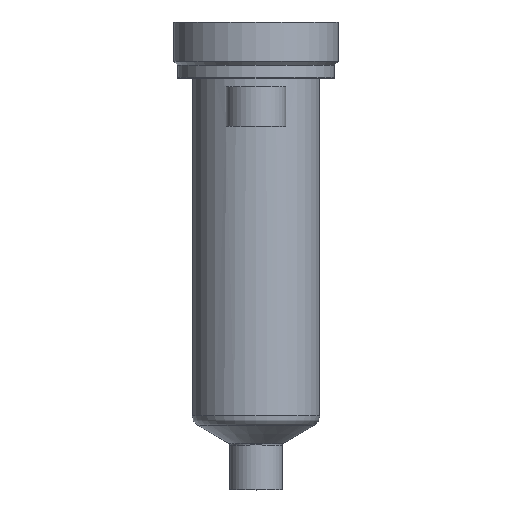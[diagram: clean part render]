
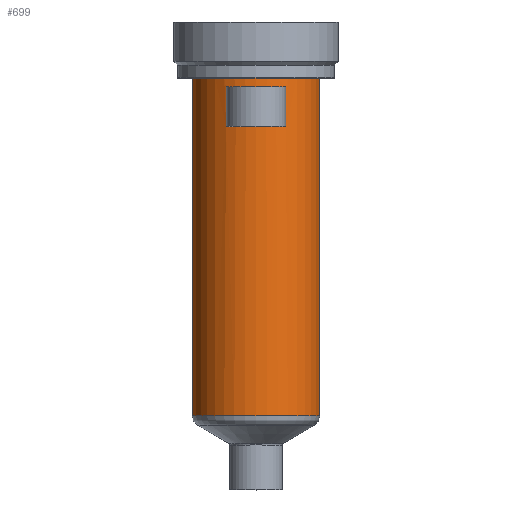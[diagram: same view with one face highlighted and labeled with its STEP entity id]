
A CAD part, top view. The second image highlights one B-rep face of the part: STEP entity #699.
In plain terms, the highlighted cylindrical face has radius 17 mm (diameter 34 mm), a partial arc.
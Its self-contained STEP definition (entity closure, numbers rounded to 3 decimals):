
#191=DIRECTION('',(0.,-1.,0.));
#192=VECTOR('',#191,90.206);
#193=CARTESIAN_POINT('',(17.,0.,0.));
#194=LINE('',#193,#192);
#195=CARTESIAN_POINT('',(0.,-90.206,0.));
#196=DIRECTION('',(0.,1.,0.));
#197=DIRECTION('',(-1.,0.,0.));
#198=AXIS2_PLACEMENT_3D('',#195,#196,#197);
#200=DIRECTION('',(0.,1.,0.));
#201=VECTOR('',#200,90.206);
#202=CARTESIAN_POINT('',(-17.,-90.206,0.));
#203=LINE('',#202,#201);
#204=CARTESIAN_POINT('',(0.,0.,0.));
#205=DIRECTION('',(0.,1.,0.));
#206=DIRECTION('',(-1.,0.,0.));
#207=AXIS2_PLACEMENT_3D('',#204,#205,#206);
#285=DIRECTION('',(0.,1.,0.));
#286=VECTOR('',#285,10.5);
#287=CARTESIAN_POINT('',(-8.,-13.,15.));
#288=LINE('',#287,#286);
#289=CARTESIAN_POINT('',(0.,-13.,0.));
#290=DIRECTION('',(0.,1.,0.));
#291=DIRECTION('',(-0.471,0.,0.882));
#292=AXIS2_PLACEMENT_3D('',#289,#290,#291);
#315=CARTESIAN_POINT('',(0.,-2.5,0.));
#316=DIRECTION('',(0.,-1.,0.));
#317=DIRECTION('',(0.471,0.,0.882));
#318=AXIS2_PLACEMENT_3D('',#315,#316,#317);
#333=DIRECTION('',(0.,1.,0.));
#334=VECTOR('',#333,10.5);
#335=CARTESIAN_POINT('',(8.,-13.,15.));
#336=LINE('',#335,#334);
#394=CARTESIAN_POINT('',(-17.,0.,0.));
#395=CARTESIAN_POINT('',(17.,0.,0.));
#396=VERTEX_POINT('',#394);
#397=VERTEX_POINT('',#395);
#406=CARTESIAN_POINT('',(-8.,-2.5,15.));
#407=VERTEX_POINT('',#406);
#408=CARTESIAN_POINT('',(8.,-2.5,15.));
#409=VERTEX_POINT('',#408);
#446=CARTESIAN_POINT('',(17.,-90.206,0.));
#447=VERTEX_POINT('',#446);
#456=CARTESIAN_POINT('',(-17.,-90.206,0.));
#457=VERTEX_POINT('',#456);
#458=CARTESIAN_POINT('',(-8.,-13.,15.));
#459=CARTESIAN_POINT('',(8.,-13.,15.));
#460=VERTEX_POINT('',#458);
#461=VERTEX_POINT('',#459);
#677=CARTESIAN_POINT('',(0.,16.4,0.));
#678=DIRECTION('',(0.,-1.,0.));
#679=DIRECTION('',(-1.,0.,0.));
#680=AXIS2_PLACEMENT_3D('',#677,#678,#679);
#681=CYLINDRICAL_SURFACE('',#680,17.);
#682=ORIENTED_EDGE('',*,*,#671,.T.);
#684=ORIENTED_EDGE('',*,*,#683,.F.);
#685=ORIENTED_EDGE('',*,*,#667,.T.);
#686=ORIENTED_EDGE('',*,*,#657,.T.);
#687=EDGE_LOOP('',(#682,#684,#685,#686));
#688=FACE_OUTER_BOUND('',#687,.F.);
#690=ORIENTED_EDGE('',*,*,#689,.F.);
#692=ORIENTED_EDGE('',*,*,#691,.T.);
#694=ORIENTED_EDGE('',*,*,#693,.T.);
#696=ORIENTED_EDGE('',*,*,#695,.T.);
#697=EDGE_LOOP('',(#690,#692,#694,#696));
#698=FACE_BOUND('',#697,.F.);
#699=ADVANCED_FACE('',(#688,#698),#681,.T.);
#199=CIRCLE('',#198,17.);
#208=CIRCLE('',#207,17.);
#293=CIRCLE('',#292,17.);
#319=CIRCLE('',#318,17.);
#657=EDGE_CURVE('',#396,#397,#208,.T.);
#667=EDGE_CURVE('',#457,#396,#203,.T.);
#671=EDGE_CURVE('',#397,#447,#194,.T.);
#683=EDGE_CURVE('',#457,#447,#199,.T.);
#689=EDGE_CURVE('',#460,#407,#288,.T.);
#691=EDGE_CURVE('',#460,#461,#293,.T.);
#693=EDGE_CURVE('',#461,#409,#336,.T.);
#695=EDGE_CURVE('',#409,#407,#319,.T.);
